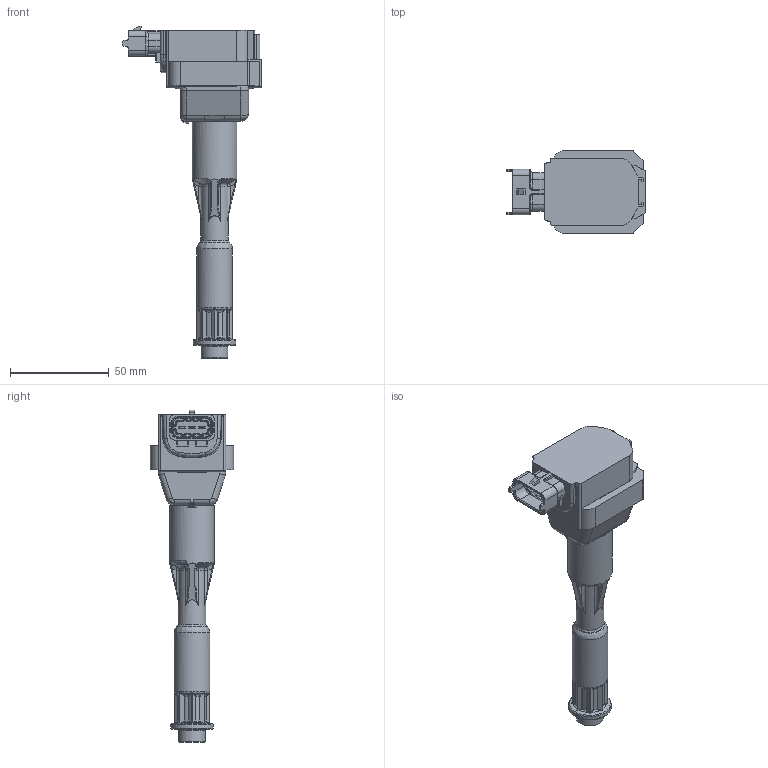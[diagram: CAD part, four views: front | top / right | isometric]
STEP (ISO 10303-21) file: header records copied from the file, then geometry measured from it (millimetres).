
FILE_DESCRIPTION(/* description */ (''),/* implementation_level */ '2;1');
FILE_NAME(/* name */ '0221504001',/* time_stamp */ '2010-03-03T09:38:41+01:00',/* author */ (''),/* organization */ (''),/* preprocessor_version */ 'ST-DEVELOPER v9',/* originating_system */ 'UGS - NX 4.0',/* authorisation */ '');
FILE_SCHEMA (('AUTOMOTIVE_DESIGN { 1 0 10303 214 1 1 1 1 }'));
Length unit declared in the file: millimetre
Products named in the file (1): del28403oz2l
Bounding box: 70.4 x 42 x 167.8 mm (x, y, z)
Volume: 91487.2 mm3; surface area: 33448 mm2
Topology: 7 solids, 9 shells, 820 faces, 2045 edges, 1241 vertices
Faces by surface type: plane 326, cylinder 227, bspline 151, torus 61, cone 35, sphere 20
Full cylindrical faces by diameter (mm): 1.5 x1, 3 x1, 4 x2, 6 x1, 7.6 x2, 9 x2, 10.2 x1, 12 x1, 13.5 x1, 14 x1, 18 x1, 21.5 x1, 22.6 x1
Entity records: 27290 total; most frequent: CARTESIAN_POINT 8766, ORIENTED_EDGE 3920, DIRECTION 3697, EDGE_CURVE 1960, AXIS2_PLACEMENT_3D 1364, VERTEX_POINT 1225, LINE 969, VECTOR 969
